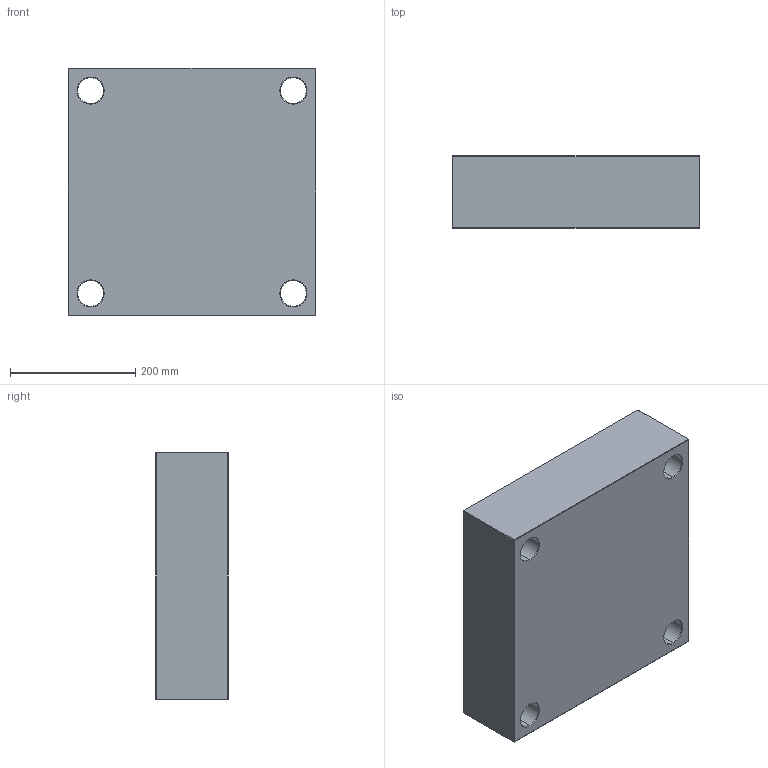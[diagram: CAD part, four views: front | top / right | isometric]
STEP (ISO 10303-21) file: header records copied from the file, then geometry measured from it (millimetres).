
FILE_DESCRIPTION (( 'STEP AP214' ), '1' );
FILE_NAME ('PCX-396x396x116.STEP', '2020-05-04T09:27:29', ( 'August' ), ( '' ), 'SwSTEP 2.0', 'SolidWorks 2018', '' );
FILE_SCHEMA (( 'AUTOMOTIVE_DESIGN' ));
Length unit declared in the file: millimetre
Products named in the file (1): PCX-396x396x116
Bounding box: 396 x 116 x 396 mm (x, y, z)
Volume: 17534627.5 mm3; surface area: 549528.7 mm2
Topology: 1 solids, 1 shells, 82 faces, 168 edges, 96 vertices
Faces by surface type: plane 34, cone 24, cylinder 24
Entity records: 2170 total; most frequent: DIRECTION 406, CARTESIAN_POINT 347, ORIENTED_EDGE 336, EDGE_CURVE 168, AXIS2_PLACEMENT_3D 155, EDGE_LOOP 98, VECTOR 96, LINE 96
